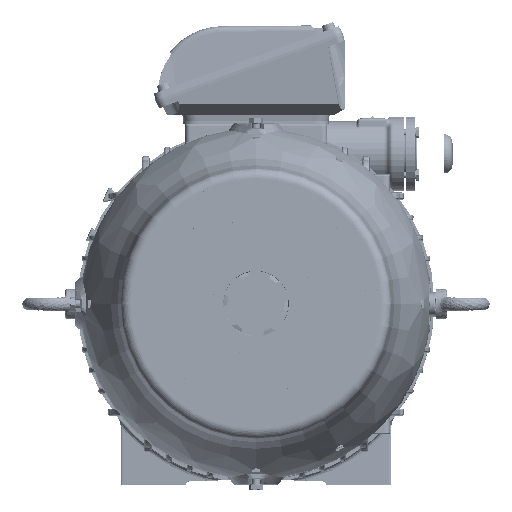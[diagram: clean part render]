
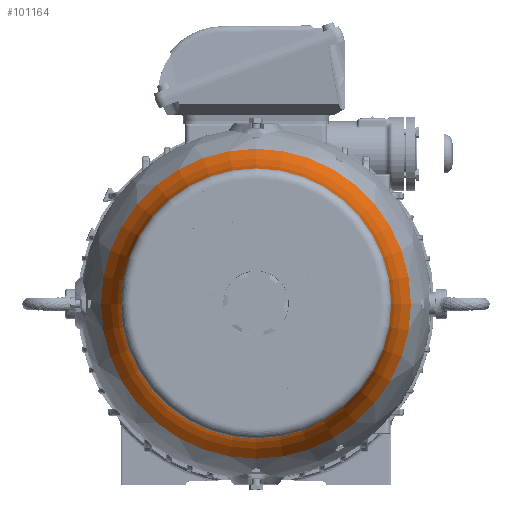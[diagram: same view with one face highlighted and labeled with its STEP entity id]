
A CAD part, top view. The second image highlights one B-rep face of the part: STEP entity #101164.
In plain terms, the highlighted toroidal (fillet/blend) face has major radius 264.661 mm and minor radius 130 mm.
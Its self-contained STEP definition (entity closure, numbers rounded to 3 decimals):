
#12778=TOROIDAL_SURFACE('',#109240,264.661,130.);
#28390=FACE_OUTER_BOUND('',#34511,.T.);
#34511=EDGE_LOOP('',(#85629,#85630,#85631,#85632,#85633,#85634));
#39900=CIRCLE('',#109235,134.976);
#39901=CIRCLE('',#109236,134.976);
#39905=CIRCLE('',#109241,154.526);
#39906=CIRCLE('',#109242,154.526);
#39907=CIRCLE('',#109243,130.);
#47784=VERTEX_POINT('',#256640);
#47785=VERTEX_POINT('',#256641);
#47788=VERTEX_POINT('',#256650);
#47789=VERTEX_POINT('',#256651);
#60890=EDGE_CURVE('',#47784,#47785,#39900,.T.);
#60891=EDGE_CURVE('',#47785,#47784,#39901,.T.);
#60895=EDGE_CURVE('',#47788,#47789,#39905,.T.);
#60896=EDGE_CURVE('',#47789,#47788,#39906,.T.);
#60897=EDGE_CURVE('',#47789,#47785,#39907,.T.);
#85629=ORIENTED_EDGE('',*,*,#60895,.F.);
#85630=ORIENTED_EDGE('',*,*,#60896,.F.);
#85631=ORIENTED_EDGE('',*,*,#60897,.T.);
#85632=ORIENTED_EDGE('',*,*,#60891,.T.);
#85633=ORIENTED_EDGE('',*,*,#60890,.T.);
#85634=ORIENTED_EDGE('',*,*,#60897,.F.);
#101164=ADVANCED_FACE('',(#28390),#12778,.F.);
#109235=AXIS2_PLACEMENT_3D('',#256642,#127790,#127791);
#109236=AXIS2_PLACEMENT_3D('',#256643,#127792,#127793);
#109240=AXIS2_PLACEMENT_3D('',#256649,#127800,#127801);
#109241=AXIS2_PLACEMENT_3D('',#256652,#127802,#127803);
#109242=AXIS2_PLACEMENT_3D('',#256653,#127804,#127805);
#109243=AXIS2_PLACEMENT_3D('',#256654,#127806,#127807);
#127790=DIRECTION('center_axis',(0.,0.,
-1.));
#127791=DIRECTION('ref_axis',(-1.,0.,0.));
#127792=DIRECTION('center_axis',(0.,0.,
-1.));
#127793=DIRECTION('ref_axis',(-1.,0.,0.));
#127800=DIRECTION('center_axis',(0.,0.,
-1.));
#127801=DIRECTION('ref_axis',(-1.,0.,0.));
#127802=DIRECTION('center_axis',(0.,0.,
-1.));
#127803=DIRECTION('ref_axis',(-1.,0.,0.));
#127804=DIRECTION('center_axis',(0.,0.,
-1.));
#127805=DIRECTION('ref_axis',(-1.,0.,0.));
#127806=DIRECTION('center_axis',(0.,1.,0.));
#127807=DIRECTION('ref_axis',(1.,0.,0.));
#256640=CARTESIAN_POINT('',(-134.976,0.,680.095));
#256641=CARTESIAN_POINT('',(134.976,0.,680.095));
#256642=CARTESIAN_POINT('Origin',(0.,0.,
680.095));
#256643=CARTESIAN_POINT('Origin',(0.,0.,
680.095));
#256649=CARTESIAN_POINT('Origin',(0.,0.,
689.131));
#256650=CARTESIAN_POINT('',(-154.526,0.,620.064));
#256651=CARTESIAN_POINT('',(154.526,0.,620.064));
#256652=CARTESIAN_POINT('Origin',(0.,0.,
620.064));
#256653=CARTESIAN_POINT('Origin',(0.,0.,
620.064));
#256654=CARTESIAN_POINT('Origin',(264.661,0.,
689.131));
